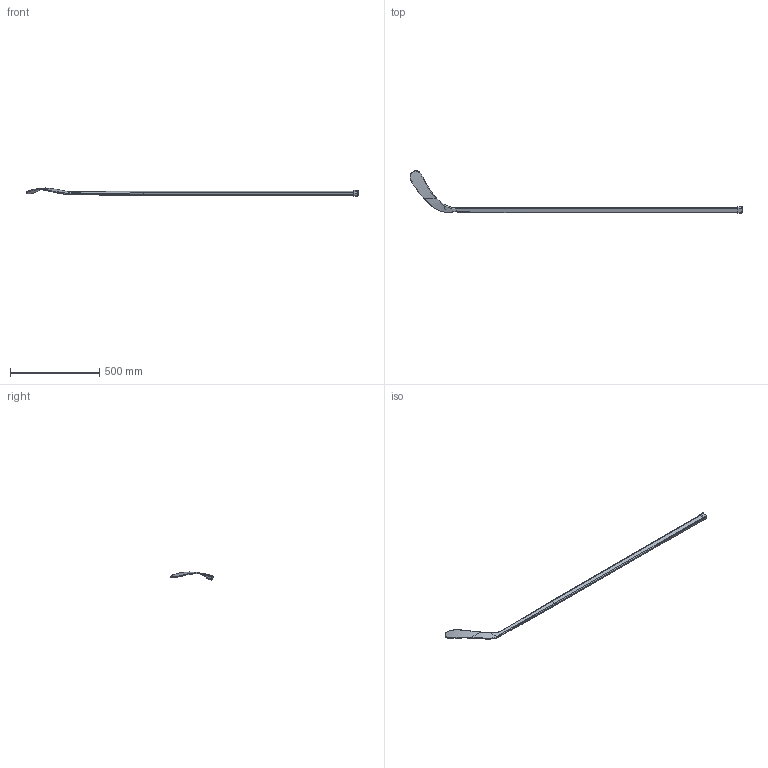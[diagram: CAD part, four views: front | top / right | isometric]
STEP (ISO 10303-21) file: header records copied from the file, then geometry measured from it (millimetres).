
FILE_DESCRIPTION(('STEP AP242'),'1');
FILE_NAME('ice-hockey-stick.stp','2025-06-06T14:20:47',(' '),(' '),'Spatial InterOp 3D',' ',' ');
FILE_SCHEMA(('AP242_MANAGED_MODEL_BASED_3D_ENGINEERING_MIM_LF {1 0 10303 442 1 1 4}'));
Length unit declared in the file: metre
Products named in the file (2): 1705573034; 1705408627
Bounding box: 1860.32 x 238.61 x 44.97 mm (x, y, z)
Volume: 450684.1 mm3; surface area: 304457.4 mm2
Topology: 2 solids, 2 shells, 174 faces, 422 edges, 242 vertices
Faces by surface type: bspline 79, plane 44, cylinder 38, torus 10, cone 2, sphere 1
Entity records: 28205 total; most frequent: CARTESIAN_POINT 23439, ORIENTED_EDGE 818, DIRECTION 476, EDGE_CURVE 409, VERTEX_POINT 242, B_SPLINE_CURVE_WITH_KNOTS 206, STYLED_ITEM 177, AXIS2_PLACEMENT_3D 177
